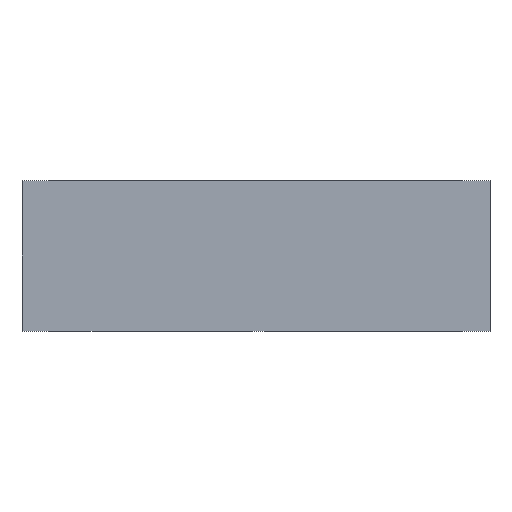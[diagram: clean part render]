
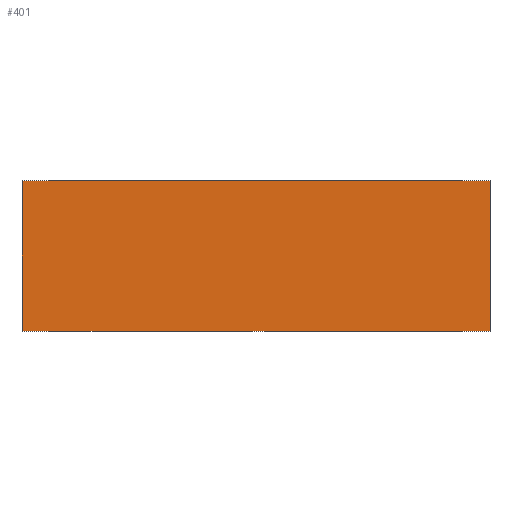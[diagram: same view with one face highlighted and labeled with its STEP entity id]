
A CAD part, front view. The second image highlights one B-rep face of the part: STEP entity #401.
In plain terms, the highlighted planar face has unit normal (0, -1, 0).
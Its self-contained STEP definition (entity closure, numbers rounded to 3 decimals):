
#28 = EDGE_CURVE ( 'NONE', #607, #696, #222, .T. ) ;
#45 = EDGE_CURVE ( 'NONE', #610, #607, #219, .T. ) ;
#46 = EDGE_CURVE ( 'NONE', #685, #696, #204, .T. ) ;
#60 = EDGE_CURVE ( 'NONE', #610, #685, #178, .T. ) ;
#86 = AXIS2_PLACEMENT_3D ( 'NONE', #532, #524, #523 ) ;
#112 = FACE_OUTER_BOUND ( 'NONE', #271, .T. ) ;
#177 = VECTOR ( 'NONE', #623, 1000. ) ;
#178 = LINE ( 'NONE', #624, #177 ) ;
#203 = VECTOR ( 'NONE', #662, 1000. ) ;
#204 = LINE ( 'NONE', #663, #203 ) ;
#206 = VECTOR ( 'NONE', #665, 1000. ) ;
#219 = LINE ( 'NONE', #678, #206 ) ;
#221 = VECTOR ( 'NONE', #689, 1000. ) ;
#222 = LINE ( 'NONE', #690, #221 ) ;
#271 = EDGE_LOOP ( 'NONE', ( #344, #345, #346, #347 ) ) ;
#344 = ORIENTED_EDGE ( 'NONE', *, *, #46, .T. ) ;
#345 = ORIENTED_EDGE ( 'NONE', *, *, #28, .F. ) ;
#346 = ORIENTED_EDGE ( 'NONE', *, *, #45, .F. ) ;
#347 = ORIENTED_EDGE ( 'NONE', *, *, #60, .T. ) ;
#401 = ADVANCED_FACE ( 'NONE', ( #112 ), #535, .F. ) ;
#445 = CARTESIAN_POINT ( 'NONE',  ( 101., 0., 0. ) ) ;
#450 = CARTESIAN_POINT ( 'NONE',  ( -101., 0., 0. ) ) ;
#473 = CARTESIAN_POINT ( 'NONE',  ( -101., 0., 65. ) ) ;
#474 = CARTESIAN_POINT ( 'NONE',  ( 101., 0., 65. ) ) ;
#523 = DIRECTION ( 'NONE',  ( -1., 0., 0. ) ) ;
#524 = DIRECTION ( 'NONE',  ( 0., 1., 0. ) ) ;
#532 = CARTESIAN_POINT ( 'NONE',  ( -101., 0., 65. ) ) ;
#535 = PLANE ( 'NONE',  #86 ) ;
#607 = VERTEX_POINT ( 'NONE', #474 ) ;
#610 = VERTEX_POINT ( 'NONE', #473 ) ;
#623 = DIRECTION ( 'NONE',  ( 0., 0., -1. ) ) ;
#624 = CARTESIAN_POINT ( 'NONE',  ( -101., 0., 65. ) ) ;
#662 = DIRECTION ( 'NONE',  ( 1., 0., 0. ) ) ;
#663 = CARTESIAN_POINT ( 'NONE',  ( -101., 0., 0. ) ) ;
#665 = DIRECTION ( 'NONE',  ( 1., 0., 0. ) ) ;
#678 = CARTESIAN_POINT ( 'NONE',  ( -101., 0., 65. ) ) ;
#685 = VERTEX_POINT ( 'NONE', #450 ) ;
#689 = DIRECTION ( 'NONE',  ( 0., 0., -1. ) ) ;
#690 = CARTESIAN_POINT ( 'NONE',  ( 101., 0., 65. ) ) ;
#696 = VERTEX_POINT ( 'NONE', #445 ) ;
